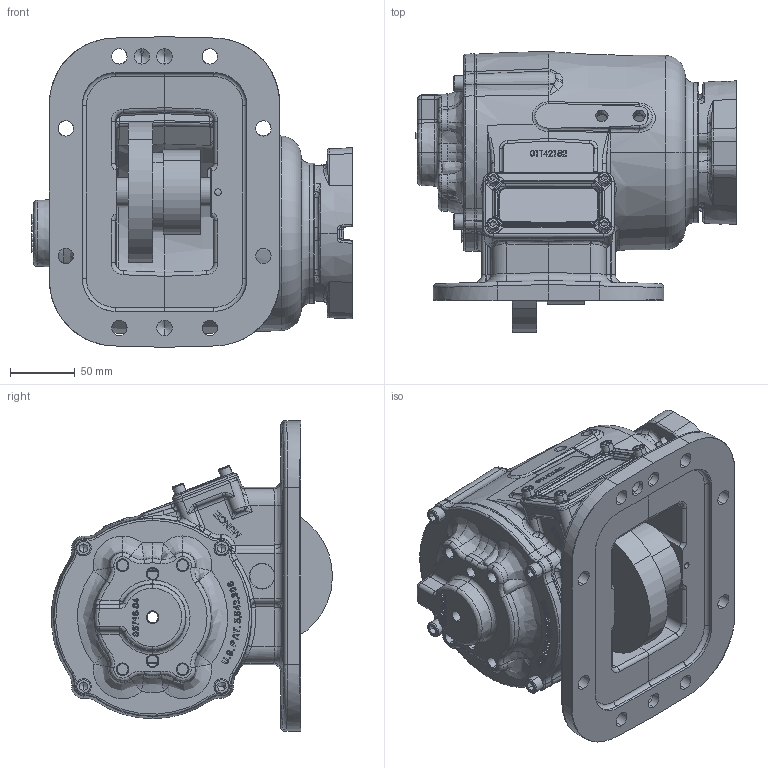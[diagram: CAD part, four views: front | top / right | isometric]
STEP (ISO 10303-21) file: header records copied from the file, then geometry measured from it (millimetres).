
FILE_DESCRIPTION (( 'STEP AP203' ), '1' );
FILE_NAME ('CS8S-XXXXX-X1TX.STEP', '2012-06-01T18:37:22', ( '' ), ( '' ), 'SwSTEP 2.0', 'SolidWorks 2012', '' );
FILE_SCHEMA (( 'CONFIG_CONTROL_DESIGN' ));
Products named in the file (3): CS8S-XXXXX-X1TX; 14T39141; CS8S-XXXXX-X1XX
Assembly tree (2 placements, depth 2):
  CS8S-XXXXX-X1TX
    CS8S-XXXXX-X1XX
    14T39141
Bounding box: 247.66 x 216.73 x 239.61 mm (x, y, z)
Volume: 1847923.5 mm3; surface area: 430074.3 mm2
Topology: 4 solids, 16 shells, 2160 faces, 5484 edges, 3394 vertices
Faces by surface type: bspline 805, plane 638, cylinder 428, cone 211, torus 72, sphere 6
Entity records: 112346 total; most frequent: CARTESIAN_POINT 66079, ORIENTED_EDGE 10806, DIRECTION 7542, EDGE_CURVE 5403, VERTEX_POINT 3394, AXIS2_PLACEMENT_3D 2635, EDGE_LOOP 2361, LINE 2272
